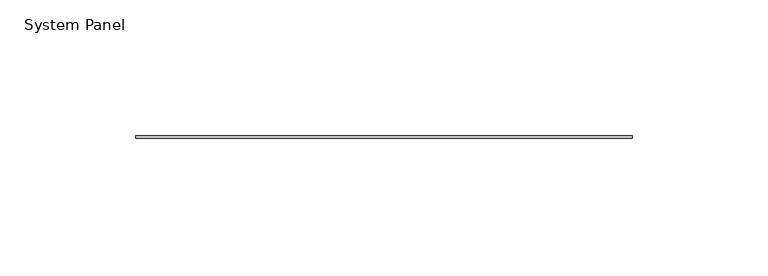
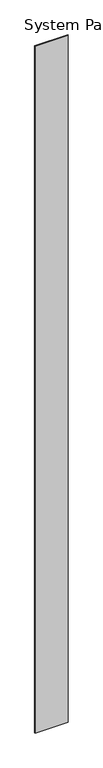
"""IFC4 building model written with IfcOpenShell, lengths in millimetres: plate geometry, System Panel : Stratco_Hiland_Interlock_Panel."""

from ifc_helpers import new_model, si_unit, origin, origin_with_axes, place, context, project, spatial, polyline, outline, extrude, source, transform, mapped, element, save


def system_panel_cfb51e1b(model_context):
    return source(origin(), model_context, "Body", "SweptSolid", [
        extrude(outline(polyline([(91.5000002, 24.0), (-91.5000002, 24.0), (-91.5000002, 25.0), (91.5000002, 25.0), (91.5000002, 24.0)])), origin_with_axes(), (0.0, 0.0, 1.0), 4000.0),
    ])


if __name__ == "__main__":
    model = new_model("IFC4")
    model_context = context("Model", 3, world=origin())
    ifc_project = project(units=[si_unit("LENGTHUNIT", "METRE", prefix="MILLI")], contexts=[model_context])
    site = spatial("IfcSite", under=ifc_project)
    building = spatial("IfcBuilding", under=site)
    placement = place(None, origin())
    system_panel_shape = system_panel_cfb51e1b(model_context)
    element("IfcPlate", 1, ObjectType="System Panel : Stratco_Hiland_Interlock_Panel", at=placement, inside=building, context=model_context, shape_type="MappedRepresentation", body=[
        mapped(system_panel_shape, transform((0.0, 0.0, 0.0), x_axis=(1.0, 0.0, 0.0), y_axis=(0.0, 1.0, 0.0), z_axis=(0.0, 0.0, 1.0))),
    ])
    save(model, "model.ifc")
